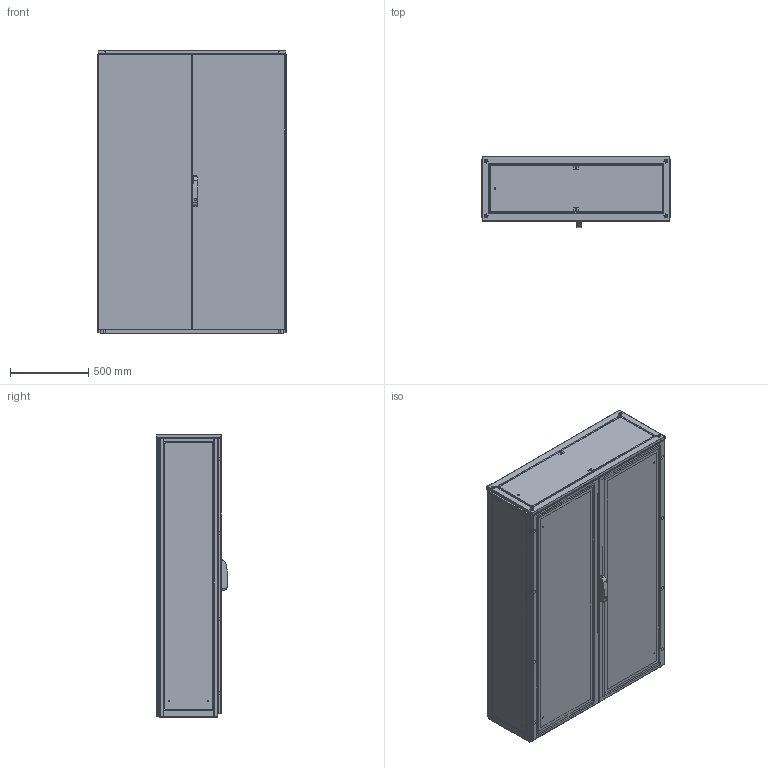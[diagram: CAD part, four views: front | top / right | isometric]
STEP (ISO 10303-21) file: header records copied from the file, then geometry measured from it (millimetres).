
FILE_DESCRIPTION(/* description */ ('STEP AP214'),/* implementation_level */ '2;1');
FILE_NAME(/* name */ 'ENUX121804PR -LOD350',/* time_stamp */ '2025-10-06T09:19:31+02:00',/* author */ ('License CC BY-ND 4.0'),/* organization */ ('CADENAS'),/* preprocessor_version */ 'ST-DEVELOPER v19.3',/* originating_system */ 'PARTsolutions',/* authorisation */ ' ');
FILE_SCHEMA (('AUTOMOTIVE_DESIGN {1 0 10303 214 3 1 1}'));
Length unit declared in the file: millimetre
Products named in the file (11): ENUX121804PR  -LOD350; ENUX121804PR  -LOD3501; ENUX121804PR  -LOD3507; ENUX121804PR  -LOD3502; ENUX121804PR  -LOD35011; ENUX121804PR  -LOD3503; ENUX121804PR  -LOD3508; ENUX121804PR  -LOD3505; ENUX121804PR  -LOD3504; ENUX121804PR  -LOD35010; ENUX121804PR  -LOD3509
Assembly tree (15 placements, depth 2):
  ENUX121804PR  -LOD350
    ENUX121804PR  -LOD3501
    ENUX121804PR  -LOD3507  x2
    ENUX121804PR  -LOD3502
    ENUX121804PR  -LOD35011
    ENUX121804PR  -LOD3503
    ENUX121804PR  -LOD3508
    ENUX121804PR  -LOD3505
    ENUX121804PR  -LOD3504
    ENUX121804PR  -LOD35010  x4
    ENUX121804PR  -LOD3509  x2
Bounding box: 1212 x 457 x 1808.5 mm (x, y, z)
Volume: 25396159.9 mm3; surface area: 20407092.2 mm2
Topology: 15 solids, 22 shells, 1428 faces, 3829 edges, 2500 vertices
Faces by surface type: plane 850, cylinder 528, torus 30, cone 12, sphere 8
Full cylindrical faces by diameter (mm): 6 x15, 9 x13, 12 x4, 14 x2, 17 x2, 28 x2
Entity records: 36566 total; most frequent: CARTESIAN_POINT 6693, DIRECTION 6207, ORIENTED_EDGE 6118, EDGE_CURVE 3059, LINE 2069, VECTOR 2069, AXIS2_PLACEMENT_3D 2069, VERTEX_POINT 2022
